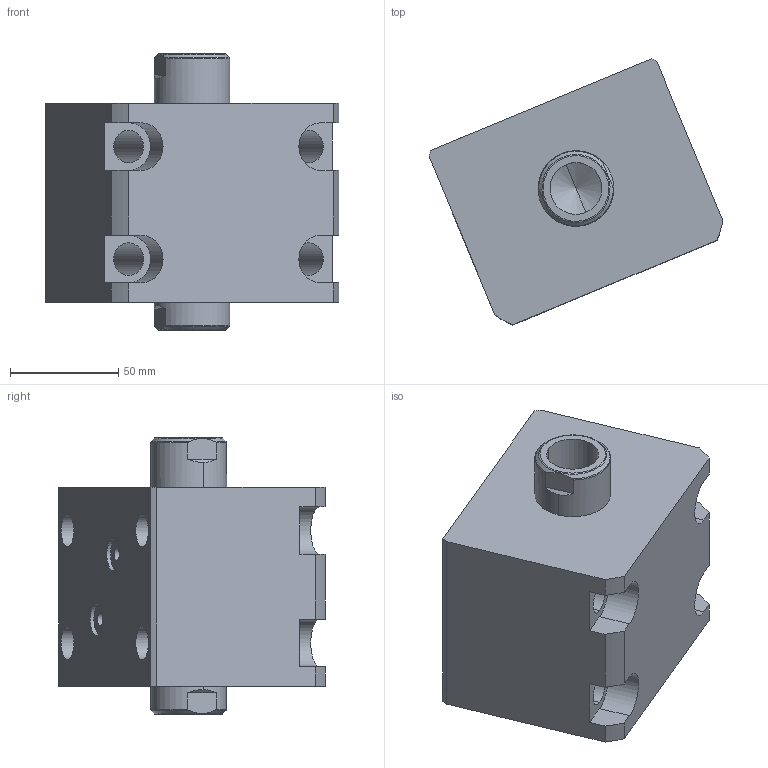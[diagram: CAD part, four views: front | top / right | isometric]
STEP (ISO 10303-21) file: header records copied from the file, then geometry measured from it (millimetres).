
FILE_DESCRIPTION (( 'STEP AP214' ), '1' );
FILE_NAME ('chtb-lwm63x10n_asm.STEP', '2018-05-22T02:11:05', ( 'Windows' ), ( 'Microsoft' ), 'SwSTEP 2.0', 'SolidWorks 2015', '' );
FILE_SCHEMA (( 'AUTOMOTIVE_DESIGN' ));
Length unit declared in the file: millimetre
Products named in the file (4): CHTB-63QG; CHTB-SW63X10NHSG; CHTB-LWM63X10NBT; chtb-lwm63x10n_asm
Assembly tree (3 placements, depth 2):
  chtb-lwm63x10n_asm
    CHTB-63QG
    CHTB-LWM63X10NBT
    CHTB-SW63X10NHSG
Bounding box: 135.77 x 123.03 x 128 mm (x, y, z)
Volume: 843593.3 mm3; surface area: 131885.6 mm2
Topology: 3 solids, 3 shells, 173 faces, 510 edges, 345 vertices
Faces by surface type: cylinder 98, plane 39, bspline 12, cone 12, torus 12
Entity records: 18228 total; most frequent: CARTESIAN_POINT 13770, ORIENTED_EDGE 1004, DIRECTION 763, EDGE_CURVE 502, VERTEX_POINT 345, AXIS2_PLACEMENT_3D 294, EDGE_LOOP 199, LINE 175
